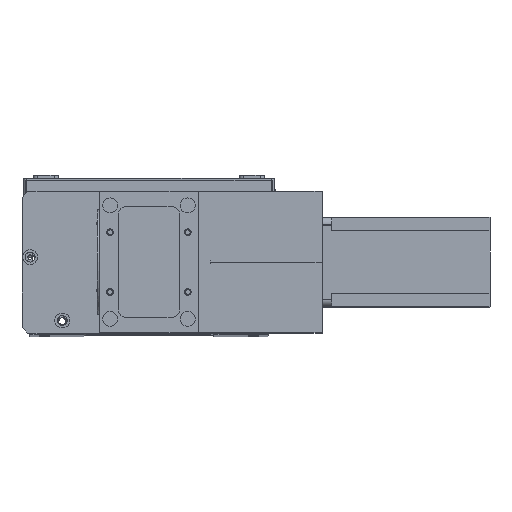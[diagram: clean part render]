
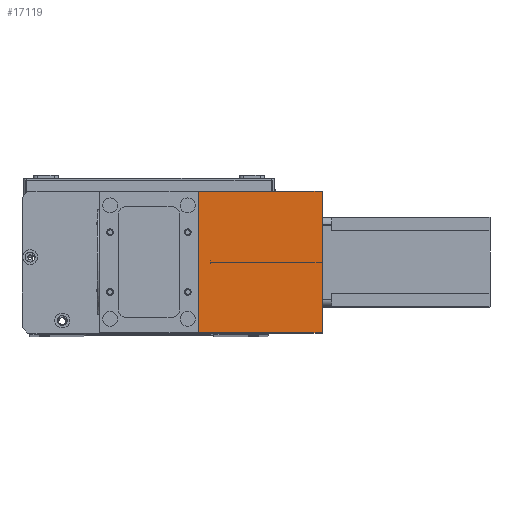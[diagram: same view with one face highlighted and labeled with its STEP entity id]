
A CAD part, top view. The second image highlights one B-rep face of the part: STEP entity #17119.
In plain terms, the highlighted planar face has unit normal (0, 0, 1) as drawn and (1, 0, 0) by its records, which use the part's own axes.
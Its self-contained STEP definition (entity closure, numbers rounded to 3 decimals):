
#1937 = LINE ( 'NONE', #5114, #18804 ) ;
#2981 = ORIENTED_EDGE ( 'NONE', *, *, #12703, .T. ) ;
#3400 = CARTESIAN_POINT ( 'NONE',  ( 82., 95., 83. ) ) ;
#3480 = DIRECTION ( 'NONE',  ( 0., 0., -1. ) ) ;
#3587 = CARTESIAN_POINT ( 'NONE',  ( 82., 0., 83. ) ) ;
#3595 = EDGE_LOOP ( 'NONE', ( #26438, #20691, #19059, #2981 ) ) ;
#3783 = CARTESIAN_POINT ( 'NONE',  ( 82., 0., 83. ) ) ;
#3864 = DIRECTION ( 'NONE',  ( 0., 0., -1. ) ) ;
#4478 = VECTOR ( 'NONE', #3864, 1000. ) ;
#5114 = CARTESIAN_POINT ( 'NONE',  ( 82., 0., 83. ) ) ;
#6076 = PLANE ( 'NONE',  #16864 ) ;
#6827 = VERTEX_POINT ( 'NONE', #27847 ) ;
#7316 = VECTOR ( 'NONE', #8285, 1000. ) ;
#8044 = CARTESIAN_POINT ( 'NONE',  ( 82., 0., 83. ) ) ;
#8285 = DIRECTION ( 'NONE',  ( 0., 1., 0. ) ) ;
#8535 = CARTESIAN_POINT ( 'NONE',  ( 82., 0., 0. ) ) ;
#12703 = EDGE_CURVE ( 'NONE', #18785, #13116, #20989, .T. ) ;
#13116 = VERTEX_POINT ( 'NONE', #14675 ) ;
#13150 = LINE ( 'NONE', #8535, #7316 ) ;
#14519 = EDGE_CURVE ( 'NONE', #13116, #6827, #13150, .T. ) ;
#14675 = CARTESIAN_POINT ( 'NONE',  ( 82., 0., 0. ) ) ;
#14888 = DIRECTION ( 'NONE',  ( 0., 0., 1. ) ) ;
#15414 = EDGE_CURVE ( 'NONE', #26720, #6827, #27501, .T. ) ;
#16852 = EDGE_CURVE ( 'NONE', #18785, #26720, #1937, .T. ) ;
#16864 = AXIS2_PLACEMENT_3D ( 'NONE', #3783, #27648, #14888 ) ;
#17119 = ADVANCED_FACE ( 'NONE', ( #24797 ), #6076, .F. ) ;
#18785 = VERTEX_POINT ( 'NONE', #8044 ) ;
#18804 = VECTOR ( 'NONE', #22404, 1000. ) ;
#19059 = ORIENTED_EDGE ( 'NONE', *, *, #16852, .F. ) ;
#19550 = CARTESIAN_POINT ( 'NONE',  ( 82., 95., 83. ) ) ;
#20310 = VECTOR ( 'NONE', #3480, 1000. ) ;
#20691 = ORIENTED_EDGE ( 'NONE', *, *, #15414, .F. ) ;
#20989 = LINE ( 'NONE', #3587, #20310 ) ;
#22404 = DIRECTION ( 'NONE',  ( 0., 1., 0. ) ) ;
#24797 = FACE_OUTER_BOUND ( 'NONE', #3595, .T. ) ;
#26438 = ORIENTED_EDGE ( 'NONE', *, *, #14519, .T. ) ;
#26720 = VERTEX_POINT ( 'NONE', #19550 ) ;
#27501 = LINE ( 'NONE', #3400, #4478 ) ;
#27648 = DIRECTION ( 'NONE',  ( -1., 0., 0. ) ) ;
#27847 = CARTESIAN_POINT ( 'NONE',  ( 82., 95., 0. ) ) ;
